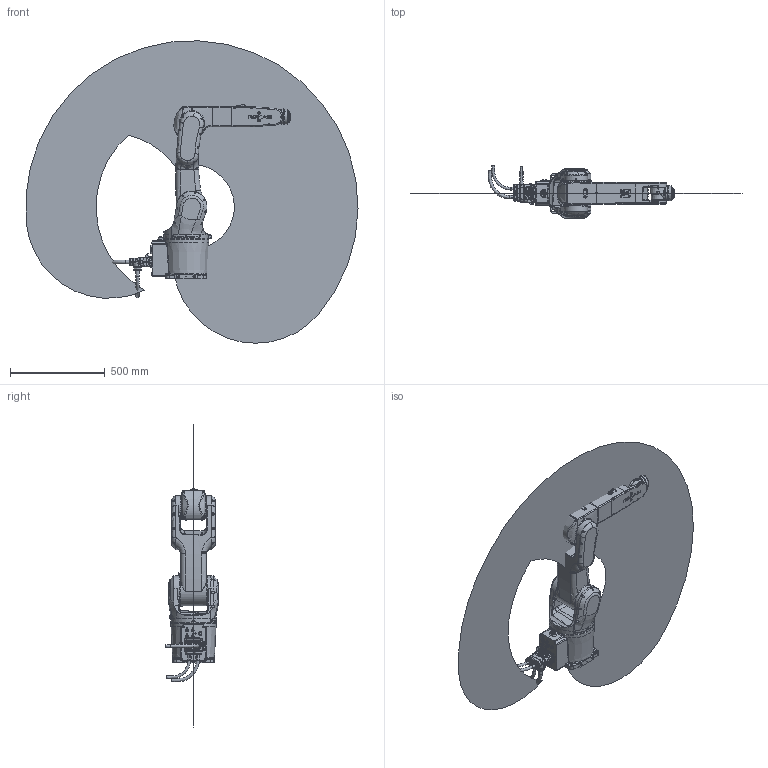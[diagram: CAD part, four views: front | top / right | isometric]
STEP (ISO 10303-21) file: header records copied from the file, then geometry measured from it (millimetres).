
FILE_DESCRIPTION(/* description */ (''),/* implementation_level */ '2;1');
FILE_NAME(/* name */ 'XB7s-R906-XBC3线束 简化模型(20220426).stp',/* time_stamp */ '2022-04-26T15:59:23+08:00',/* author */ (''),/* organization */ (''),/* preprocessor_version */ 'ST-DEVELOPER v16',/* originating_system */ 'SIEMENS PLM Software NX 10.0',/* authorisation */ '');
FILE_SCHEMA (('CONFIG_CONTROL_DESIGN'));
Products named in the file (9): XB7&12-3Dwork-B; XB7-shuchu-A; XB7&12-shouwan-A; XB7&12-xiaobiqian-Blogo; XB7&12-xiaobihou-A; XB7&12-dabi-B; XB7&12-yao-A; XB7&12-base-A; XB7s-R906-XBC3线束 简化模型(
20220426)
Assembly tree (8 placements, depth 2):
  XB7s-R906-XBC3线束 简化模型(
20220426)
    XB7&12-base-A
    XB7&12-yao-A
    XB7&12-dabi-B
    XB7&12-xiaobihou-A
    XB7&12-xiaobiqian-Blogo
    XB7&12-shouwan-A
    XB7-shuchu-A
    XB7&12-3Dwork-B
Bounding box: 1750.79 x 276 x 1594.95 mm (x, y, z)
Volume: 33492848.2 mm3; surface area: 3210492.5 mm2
Topology: 9 solids, 17 shells, 3760 faces, 9156 edges, 5553 vertices
Faces by surface type: plane 1217, cylinder 925, bspline 833, torus 274, cone 234, extrusion 209, sphere 68
Full cylindrical faces by diameter (mm): 3.3 x8, 4.2 x9, 4.826 x1, 5 x3, 5.5 x83, 6 x2, 7 x21, 8.5 x10, 9.5 x3, 10 x4, 10.701 x2, 13 x1, 13.5 x4, 14 x1, 15 x6, 18.5 x1, 20 x1, 22 x1, 40 x1, 50 x2, 55 x2, 59 x2, 65 x1, 68 x1, 70 x2, 86 x2, 88 x1, 100 x2, 119 x1, 120 x1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
Entity records: 168420 total; most frequent: CARTESIAN_POINT 89329, ORIENTED_EDGE 17204, DIRECTION 14201, EDGE_CURVE 8605, AXIS2_PLACEMENT_3D 5568, VERTEX_POINT 5401, EDGE_LOOP 4268, ADVANCED_FACE 3752
